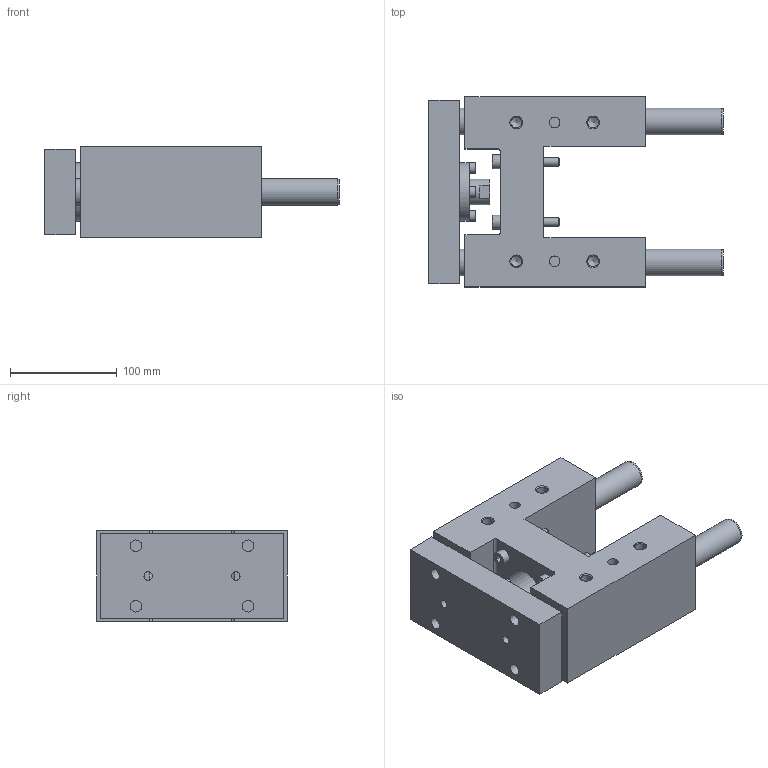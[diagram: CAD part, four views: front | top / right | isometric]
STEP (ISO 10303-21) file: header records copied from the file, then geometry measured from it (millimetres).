
FILE_DESCRIPTION( ( 'STEP AP214' ), '1' );
FILE_NAME( 'U:/Etudes/Top Solid/BIBLIO 3D AVM/TOP/PNEUMATIQUE/GUIDAGES/Type 32 (en H)/R_Renforcée/327R0_30.step', '2005-05-27T09:04:49', ( ' ' ), ( ' ' ), 'XStep 1.0', ' ', ' ' );
FILE_SCHEMA( ( 'automotive_design' ) );
Length unit declared in the file: metre
Products named in the file (2): 1; 2
Bounding box: 276 x 178 x 85 mm (x, y, z)
Volume: 2039144.3 mm3; surface area: 258692.8 mm2
Topology: 2 solids, 7 shells, 209 faces, 484 edges, 321 vertices
Faces by surface type: plane 118, cylinder 70, cone 21
Full cylindrical faces by diameter (mm): 6 x8, 6.5 x4, 8 x10, 8.376 x4, 9 x4, 10 x6, 10.106 x8, 11 x4, 13 x4, 14.376 x2, 18 x4, 24 x1, 25 x4, 26 x1, 34 x1, 37 x1, 45 x1, 55 x1
Entity records: 7089 total; most frequent: CARTESIAN_POINT 1103, DIRECTION 900, ORIENTED_EDGE 696, EDGE_LOOP 358, AXIS2_PLACEMENT_3D 349, EDGE_CURVE 348, VERTEX_POINT 280, FACE_OUTER_BOUND 277
